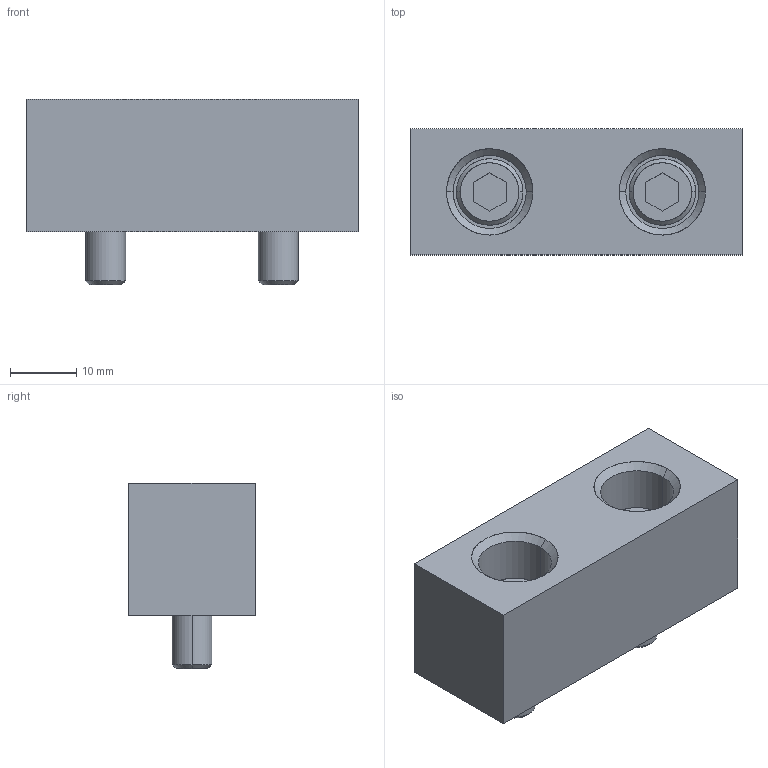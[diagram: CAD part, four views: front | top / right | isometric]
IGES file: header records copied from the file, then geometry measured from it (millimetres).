
Global section: file name: E:\UnigraphicsGraphicData\MISUMI_PRESS-PARTS\IGES\3d_sbvk19-50-20-r-15_00154_r00.igs; native system: NX V5.0; preprocessor: UGS NX IGES V5.0; author: MISUMI; date: 20110105.162511; units: millimetre
Bounding box: 50 x 19 x 28 mm (x, y, z)
Surface area: 6998 mm2 (no closed solid volume)
Topology: 0 solids, 0 shells, 56 faces, 336 edges, 336 vertices
Faces by surface type: bspline 56
